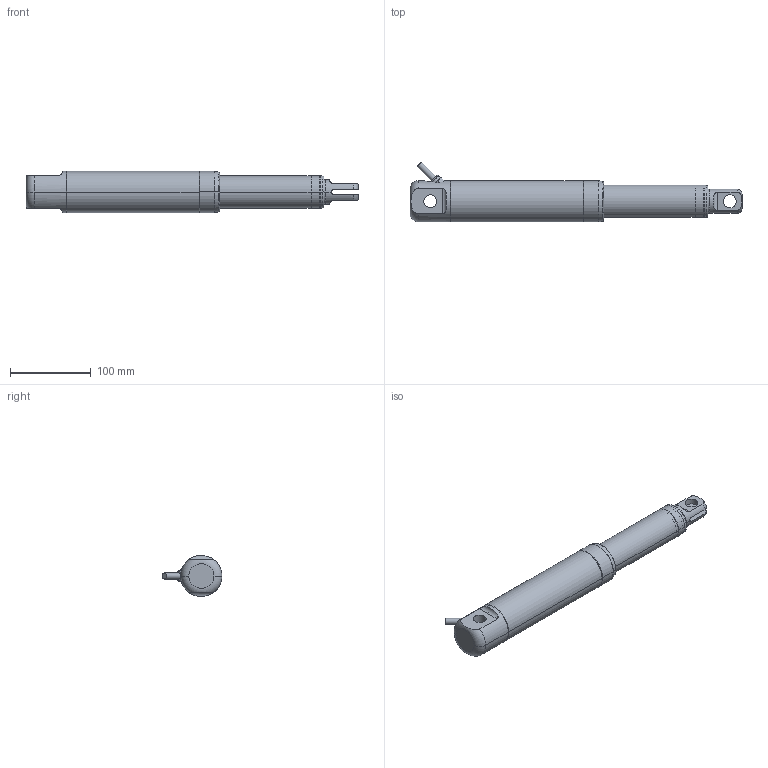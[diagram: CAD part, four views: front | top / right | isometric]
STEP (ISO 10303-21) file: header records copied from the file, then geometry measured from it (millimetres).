
FILE_DESCRIPTION (( 'STEP AP214' ), '1' );
FILE_NAME ('mk50-hs-s100.STEP', '2024-10-07T03:56:03', ( '' ), ( '' ), 'SwSTEP 2.0', 'SolidWorks 2023', '' );
FILE_SCHEMA (( 'AUTOMOTIVE_DESIGN' ));
Length unit declared in the file: millimetre
Products named in the file (3): MK50-hs-1.step; MK50-2.step; mk50-hs-s100
Assembly tree (2 placements, depth 2):
  mk50-hs-s100
    MK50-hs-1.step
    MK50-2.step
Bounding box: 410 x 73.78 x 50.8 mm (x, y, z)
Volume: 246043.6 mm3; surface area: 143146.7 mm2
Topology: 2 solids, 8 shells, 229 faces, 514 edges, 327 vertices
Faces by surface type: cylinder 103, plane 59, cone 45, torus 18, bspline 4
Full cylindrical faces by diameter (mm): 7.5 x1, 13.5 x1, 46 x2
Entity records: 9409 total; most frequent: CARTESIAN_POINT 4111, DIRECTION 1162, ORIENTED_EDGE 1016, EDGE_CURVE 508, AXIS2_PLACEMENT_3D 499, VERTEX_POINT 325, EDGE_LOOP 283, CIRCLE 269
